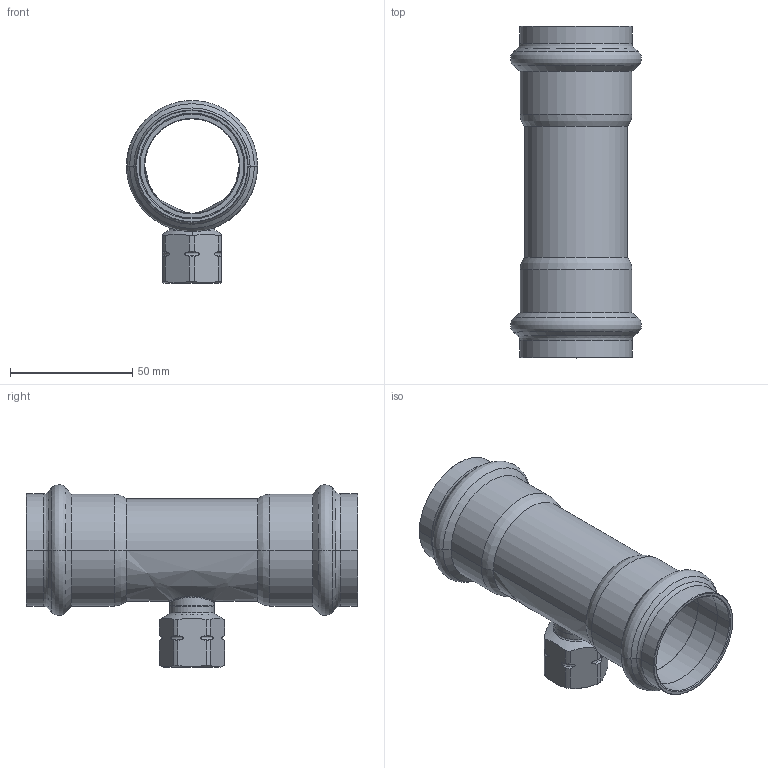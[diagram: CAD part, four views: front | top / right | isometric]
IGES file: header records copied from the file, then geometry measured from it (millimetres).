
Start section: Elysium IGES Interface
Global section: file name: C:\3d modellen sudo\C-Pr VP\SP8130GV\8130GVW421242.igs; native system: CoCreate Modeling 17.00A  17-Jun-2010; preprocessor: CoCreate IGES_3D V2.2; author: Unknown; organization: Unknown; date: 20130212.141257; units: millimetre
Bounding box: 53.61 x 135.73 x 74.79 mm (x, y, z)
Volume: 44544.6 mm3; surface area: 42543 mm2
Topology: 1 solids, 1 shells, 137 faces, 328 edges, 194 vertices
Faces by surface type: bspline 137
